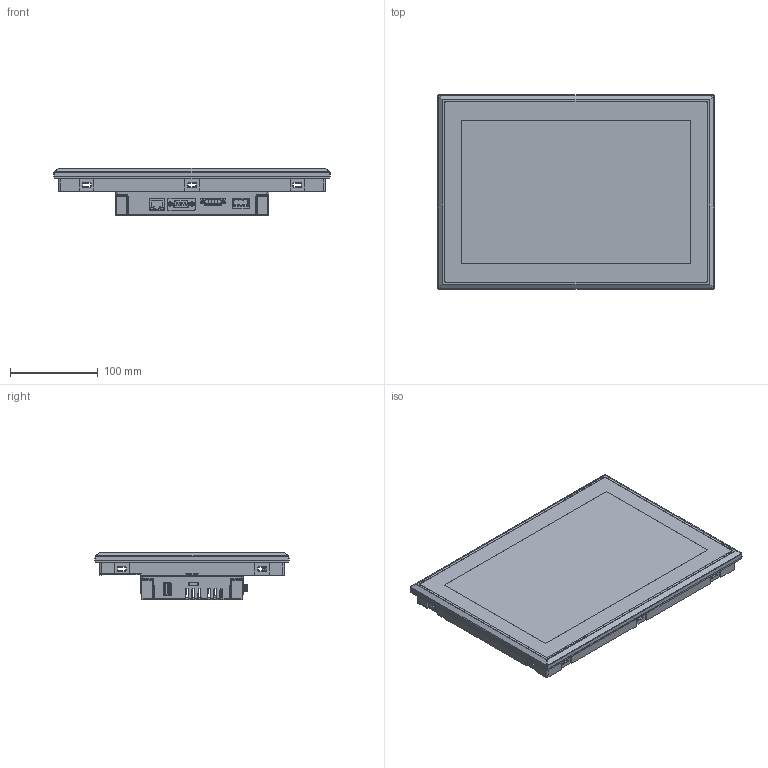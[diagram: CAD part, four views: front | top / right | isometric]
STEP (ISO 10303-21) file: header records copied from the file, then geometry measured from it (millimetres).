
FILE_DESCRIPTION (( 'STEP AP203' ), '1' );
FILE_NAME ('CM-eXT2-12W-DE.STEP', '2025-06-27T06:17:31', ( '' ), ( '' ), 'SwSTEP 2.0', 'SolidWorks 2024', '' );
FILE_SCHEMA (( 'CONFIG_CONTROL_DESIGN' ));
Products named in the file (1): CM-eXT2-12W-DE
Bounding box: 314.92 x 221.16 x 53.6 mm (x, y, z)
Volume: 464250.5 mm3; surface area: 399788.7 mm2
Topology: 1 solids, 10 shells, 5711 faces, 15956 edges, 10320 vertices
Faces by surface type: plane 3402, cylinder 1386, bspline 637, cone 158, sphere 82, torus 46
Entity records: 209997 total; most frequent: CARTESIAN_POINT 67451, ORIENTED_EDGE 31834, DIRECTION 26806, EDGE_CURVE 15917, LINE 11104, VECTOR 11104, VERTEX_POINT 10302, AXIS2_PLACEMENT_3D 7851
